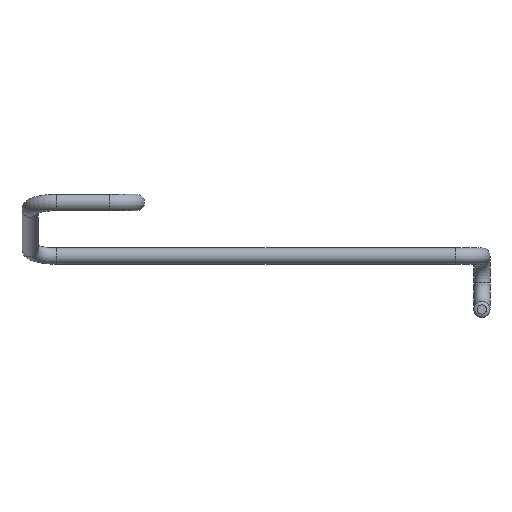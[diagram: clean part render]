
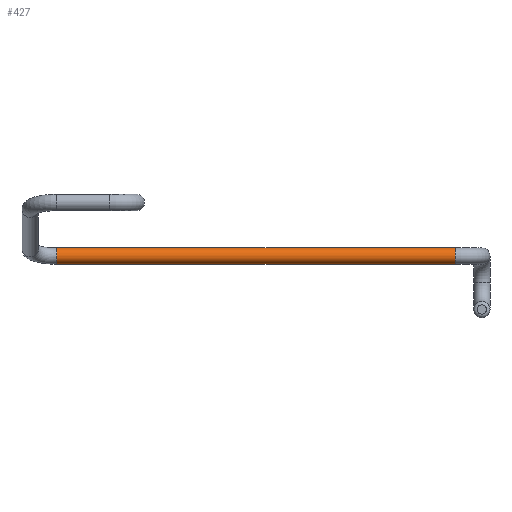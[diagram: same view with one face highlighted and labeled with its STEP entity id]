
A CAD part, left-side view. The second image highlights one B-rep face of the part: STEP entity #427.
In plain terms, the highlighted cylindrical face has radius 0.925 mm (diameter 1.85 mm), a full revolution.
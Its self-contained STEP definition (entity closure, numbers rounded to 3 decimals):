
#362 = TOROIDAL_SURFACE('',#363,3.,0.925);
#363 = AXIS2_PLACEMENT_3D('',#364,#365,#366);
#364 = CARTESIAN_POINT('',(-1.892,11.,-10.354));
#365 = DIRECTION('',(0.265,0.,0.964));
#366 = DIRECTION('',(0.964,0.,-0.265)
  );
#378 = VERTEX_POINT('',#379);
#379 = CARTESIAN_POINT('',(1.,11.,-12.075));
#402 = EDGE_CURVE('',#378,#378,#403,.T.);
#403 = SURFACE_CURVE('',#404,(#409,#415),.PCURVE_S1.);
#404 = CIRCLE('',#405,0.925);
#405 = AXIS2_PLACEMENT_3D('',#406,#407,#408);
#406 = CARTESIAN_POINT('',(1.,11.,-11.15));
#407 = DIRECTION('',(0.,1.,0.));
#408 = DIRECTION('',(0.,0.,-1.));
#409 = PCURVE('',#362,#410);
#410 = DEFINITIONAL_REPRESENTATION('',(#411),#414);
#411 = B_SPLINE_CURVE_WITH_KNOTS('',1,(#412,#413),.UNSPECIFIED.,.F.,.F.,
  (2,2),(0.,6.283),.PIECEWISE_BEZIER_KNOTS.);
#412 = CARTESIAN_POINT('',(0.,4.981));
#413 = CARTESIAN_POINT('',(0.,-1.302));
#414 = ( GEOMETRIC_REPRESENTATION_CONTEXT(2) 
PARAMETRIC_REPRESENTATION_CONTEXT() REPRESENTATION_CONTEXT('2D SPACE',''
  ) );
#415 = PCURVE('',#416,#421);
#416 = CYLINDRICAL_SURFACE('',#417,0.925);
#417 = AXIS2_PLACEMENT_3D('',#418,#419,#420);
#418 = CARTESIAN_POINT('',(1.,-34.04,-11.15));
#419 = DIRECTION('',(0.,1.,0.));
#420 = DIRECTION('',(0.,0.,-1.));
#421 = DEFINITIONAL_REPRESENTATION('',(#422),#426);
#422 = LINE('',#423,#424);
#423 = CARTESIAN_POINT('',(0.,45.04));
#424 = VECTOR('',#425,1.);
#425 = DIRECTION('',(1.,0.));
#426 = ( GEOMETRIC_REPRESENTATION_CONTEXT(2) 
PARAMETRIC_REPRESENTATION_CONTEXT() REPRESENTATION_CONTEXT('2D SPACE',''
  ) );
#427 = ADVANCED_FACE('',(#428),#416,.T.);
#428 = FACE_BOUND('',#429,.T.);
#429 = EDGE_LOOP('',(#430,#452,#453,#454));
#430 = ORIENTED_EDGE('',*,*,#431,.T.);
#431 = EDGE_CURVE('',#432,#378,#434,.T.);
#432 = VERTEX_POINT('',#433);
#433 = CARTESIAN_POINT('',(1.,-34.04,-12.075));
#434 = SEAM_CURVE('',#435,(#439,#446),.PCURVE_S1.);
#435 = LINE('',#436,#437);
#436 = CARTESIAN_POINT('',(1.,-34.04,-12.075));
#437 = VECTOR('',#438,1.);
#438 = DIRECTION('',(0.,1.,0.));
#439 = PCURVE('',#416,#440);
#440 = DEFINITIONAL_REPRESENTATION('',(#441),#445);
#441 = LINE('',#442,#443);
#442 = CARTESIAN_POINT('',(6.283,0.));
#443 = VECTOR('',#444,1.);
#444 = DIRECTION('',(0.,1.));
#445 = ( GEOMETRIC_REPRESENTATION_CONTEXT(2) 
PARAMETRIC_REPRESENTATION_CONTEXT() REPRESENTATION_CONTEXT('2D SPACE',''
  ) );
#446 = PCURVE('',#416,#447);
#447 = DEFINITIONAL_REPRESENTATION('',(#448),#451);
#448 = B_SPLINE_CURVE_WITH_KNOTS('',1,(#449,#450),.UNSPECIFIED.,.F.,.F.,
  (2,2),(0.,45.04),.PIECEWISE_BEZIER_KNOTS.);
#449 = CARTESIAN_POINT('',(0.,0.));
#450 = CARTESIAN_POINT('',(0.,45.04));
#451 = ( GEOMETRIC_REPRESENTATION_CONTEXT(2) 
PARAMETRIC_REPRESENTATION_CONTEXT() REPRESENTATION_CONTEXT('2D SPACE',''
  ) );
#452 = ORIENTED_EDGE('',*,*,#402,.F.);
#453 = ORIENTED_EDGE('',*,*,#431,.F.);
#454 = ORIENTED_EDGE('',*,*,#455,.F.);
#455 = EDGE_CURVE('',#432,#432,#456,.T.);
#456 = SURFACE_CURVE('',#457,(#462,#468),.PCURVE_S1.);
#457 = CIRCLE('',#458,0.925);
#458 = AXIS2_PLACEMENT_3D('',#459,#460,#461);
#459 = CARTESIAN_POINT('',(1.,-34.04,-11.15));
#460 = DIRECTION('',(0.,-1.,-0.));
#461 = DIRECTION('',(-1.,0.,0.));
#462 = PCURVE('',#416,#463);
#463 = DEFINITIONAL_REPRESENTATION('',(#464),#467);
#464 = B_SPLINE_CURVE_WITH_KNOTS('',1,(#465,#466),.UNSPECIFIED.,.F.,.F.,
  (2,2),(1.571,7.854),.PIECEWISE_BEZIER_KNOTS.);
#465 = CARTESIAN_POINT('',(6.283,0.));
#466 = CARTESIAN_POINT('',(0.,0.));
#467 = ( GEOMETRIC_REPRESENTATION_CONTEXT(2) 
PARAMETRIC_REPRESENTATION_CONTEXT() REPRESENTATION_CONTEXT('2D SPACE',''
  ) );
#468 = PCURVE('',#469,#474);
#469 = TOROIDAL_SURFACE('',#470,3.,0.925);
#470 = AXIS2_PLACEMENT_3D('',#471,#472,#473);
#471 = CARTESIAN_POINT('',(4.,-34.04,-11.15));
#472 = DIRECTION('',(-0.,-0.,-1.));
#473 = DIRECTION('',(0.,-1.,0.));
#474 = DEFINITIONAL_REPRESENTATION('',(#475),#479);
#475 = LINE('',#476,#477);
#476 = CARTESIAN_POINT('',(1.571,0.));
#477 = VECTOR('',#478,1.);
#478 = DIRECTION('',(0.,1.));
#479 = ( GEOMETRIC_REPRESENTATION_CONTEXT(2) 
PARAMETRIC_REPRESENTATION_CONTEXT() REPRESENTATION_CONTEXT('2D SPACE',''
  ) );
